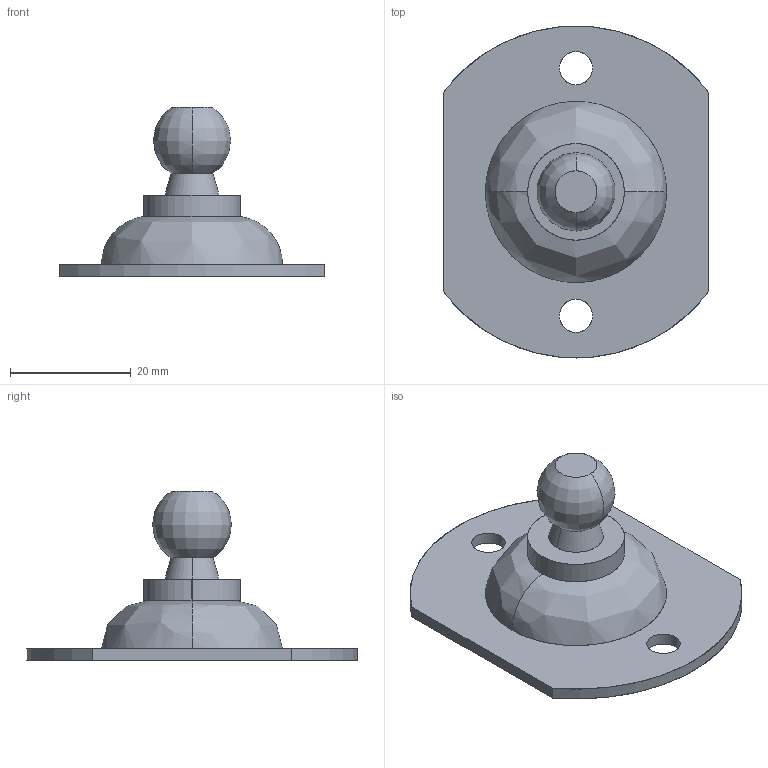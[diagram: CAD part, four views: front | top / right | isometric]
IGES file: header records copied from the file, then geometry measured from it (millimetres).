
Start section: SolidWorks IGES file using analytic representation for surfaces
Bounding box: 44 x 55 x 28 mm (x, y, z)
Surface area: 6112.6 mm2 (no closed solid volume)
Topology: 0 solids, 0 shells, 26 faces, 600 edges, 600 vertices
Faces by surface type: bspline 14, revolution 12
